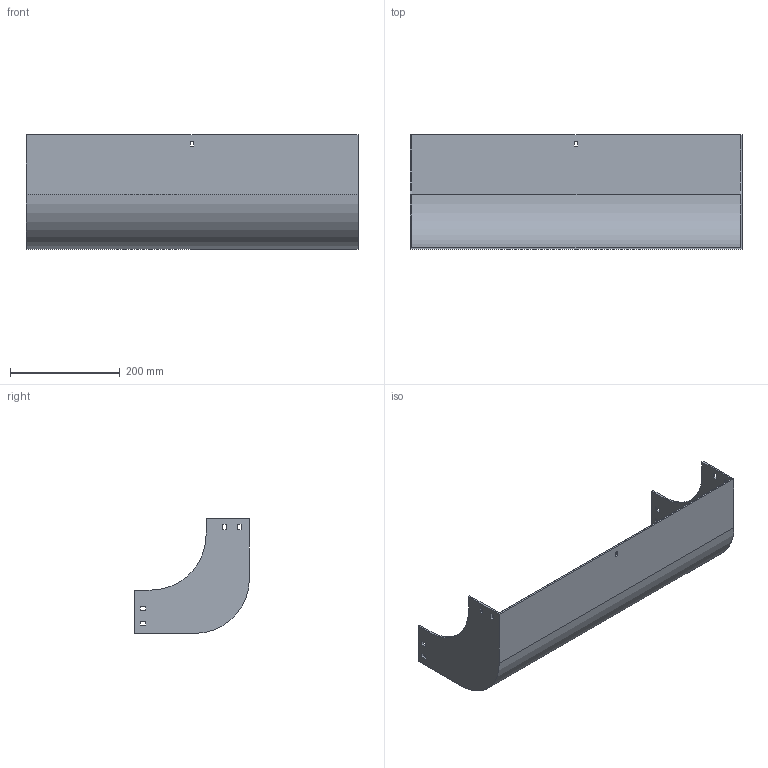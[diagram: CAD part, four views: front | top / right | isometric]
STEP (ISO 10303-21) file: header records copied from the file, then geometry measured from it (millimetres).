
FILE_DESCRIPTION (( 'STEP AP214' ), '1' );
FILE_NAME ('30F1C600.step', '2025-02-21T13:02:24', ( '' ), ( '' ), 'SwSTEP 2.0', 'SolidWorks 2023', '' );
FILE_SCHEMA (( 'AUTOMOTIVE_DESIGN' ));
Length unit declared in the file: millimetre
Products named in the file (1): 30F1C600
Bounding box: 604 x 209 x 209 mm (x, y, z)
Volume: 963082.6 mm3; surface area: 558325.7 mm2
Topology: 1 solids, 1 shells, 58 faces, 168 edges, 112 vertices
Faces by surface type: plane 54, cylinder 4
Entity records: 1943 total; most frequent: CARTESIAN_POINT 339, ORIENTED_EDGE 336, DIRECTION 294, EDGE_CURVE 168, LINE 160, VECTOR 160, VERTEX_POINT 112, EDGE_LOOP 78
